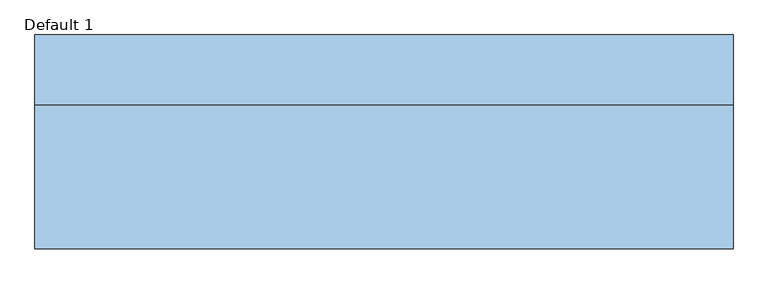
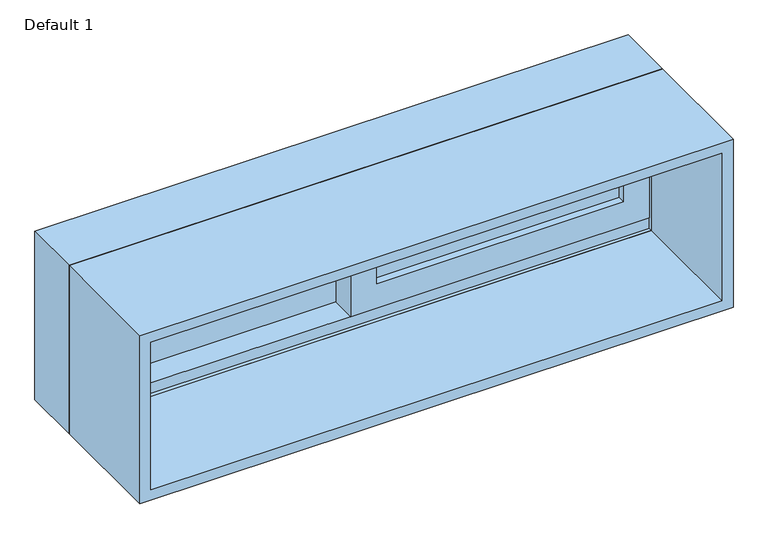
"""IFC4 building model written with IfcOpenShell, lengths in millimetres: window geometry, Planitar-Sliding-Double : Default 1."""

from ifc_helpers import new_model, si_unit, frame, origin, place, context, project, spatial, polyline, outline, extrude, faceted_brep, source, transform, mapped, element, save


def default_1_7bcdb6ec(model_context):
    return source(origin(), model_context, "Body", "SolidModel", [
        extrude(outline(polyline([(933.45, -488.95), (933.45, 22.225), (1200.15, 22.225), (1200.15, -488.95), (933.45, -488.95)]), holes=[polyline([(1155.7, -22.225), (996.95, -22.225), (996.95, -444.5), (1155.7, -444.5), (1155.7, -22.225)])]), frame((0.0, 110.49, 0.0), z_axis=(0.0, 1.0, 0.0), x_axis=(0.0, 0.0, 1.0)), (0.0, 0.0, 1.0), 44.45),
        extrude(outline(polyline([(952.5, 488.95), (1200.15, 488.95), (1200.15, -22.225), (952.5, -22.225), (952.5, 488.95)]), holes=[polyline([(996.95, 22.225), (1155.7, 22.225), (1155.7, 444.5), (996.95, 444.5), (996.95, 22.225)])]), frame((0.0, 66.04, 0.0), z_axis=(0.0, 1.0, 0.0), x_axis=(0.0, 0.0, 1.0)), (0.0, 0.0, 1.0), 44.45),
        faceted_brep([(-508.0, 59.69, 914.4), (-508.0, 161.29, 914.4), (508.0, 161.29, 914.4), (508.0, 59.69, 914.4), (-467.0778905, 161.29, 1178.2778905), (-467.0778905, 154.94, 1178.2778905), (-467.0778905, 154.94, 933.45), (-467.0778905, 161.29, 933.45), (467.0778905, 154.94, 1178.2778905), (467.0778905, 154.94, 933.45), (488.95, 154.94, 933.45), (488.95, 154.94, 1200.15), (-488.95, 154.94, 1200.15), (-488.95, 154.94, 933.45), (-488.95, 59.69, 1200.15), (-488.95, 59.69, 933.45), (-488.95, 66.04, 933.45), (-488.95, 66.04, 952.5), (-488.95, 110.49, 952.5), (-488.95, 110.49, 933.45), (508.0, 59.69, 1219.2), (-508.0, 59.69, 1219.2), (488.95, 59.69, 1200.15), (488.95, 59.69, 933.45), (-508.0, 161.29, 1219.2), (508.0, 161.29, 1219.2), (467.0778905, 161.29, 933.45), (467.0778905, 161.29, 1178.2778905), (488.95, 110.49, 933.45), (488.95, 110.49, 952.5), (488.95, 66.04, 952.5), (488.95, 66.04, 933.45)], [[[0, 1, 2, 3]], [[4, 5, 6, 7]], [[5, 8, 9, 10, 11, 12, 13, 6]], [[12, 14, 15, 16, 17, 18, 19, 13]], [[0, 3, 20, 21], [22, 23, 15, 14]], [[24, 1, 0, 21]], [[2, 1, 24, 25], [4, 7, 26, 27]], [[5, 4, 27, 8]], [[12, 11, 22, 14]], [[21, 20, 25, 24]], [[8, 27, 26, 9]], [[22, 11, 10, 28, 29, 30, 31, 23]], [[20, 3, 2, 25]], [[26, 7, 6, 13, 19, 28, 10, 9]], [[28, 19, 18, 29]], [[29, 18, 17, 30]], [[30, 17, 16, 31]], [[15, 23, 31, 16]]]),
        extrude(outline(polyline([(1219.2, -508.0), (914.4, -508.0), (914.4, 508.0), (1219.2, 508.0), (1219.2, -508.0)]), holes=[polyline([(1200.15, 488.95), (933.45, 488.95), (933.45, -488.95), (1200.15, -488.95), (1200.15, 488.95)])]), frame((0.0, -149.86, 0.0), z_axis=(0.0, 1.0, 0.0), x_axis=(0.0, 0.0, 1.0)), (0.0, 0.0, 1.0), 209.55),
        extrude(outline(polyline([(444.5, 97.79), (444.5, 91.44), (22.225, 91.44), (22.225, 97.79), (444.5, 97.79)])), frame((0.0, 0.0, 996.95), z_axis=(0.0, 0.0, 1.0), x_axis=(1.0, 0.0, 0.0)), (0.0, 0.0, 1.0), 158.75),
        extrude(outline(polyline([(444.5, 85.09), (444.5, 78.74), (22.225, 78.74), (22.225, 85.09), (444.5, 85.09)])), frame((0.0, 0.0, 996.95), z_axis=(0.0, 0.0, 1.0), x_axis=(1.0, 0.0, 0.0)), (0.0, 0.0, 1.0), 158.75),
        extrude(outline(polyline([(-22.225, 142.24), (-22.225, 135.89), (-444.5, 135.89), (-444.5, 142.24), (-22.225, 142.24)])), frame((0.0, 0.0, 996.95), z_axis=(0.0, 0.0, 1.0), x_axis=(1.0, 0.0, 0.0)), (0.0, 0.0, 1.0), 158.75),
        extrude(outline(polyline([(-22.225, 129.54), (-22.225, 123.19), (-444.5, 123.19), (-444.5, 129.54), (-22.225, 129.54)])), frame((0.0, 0.0, 996.95), z_axis=(0.0, 0.0, 1.0), x_axis=(1.0, 0.0, 0.0)), (0.0, 0.0, 1.0), 158.75),
    ])


if __name__ == "__main__":
    model = new_model("IFC4")
    model_context = context("Model", 3, world=origin())
    ifc_project = project(units=[si_unit("LENGTHUNIT", "METRE", prefix="MILLI")], contexts=[model_context])
    site = spatial("IfcSite", under=ifc_project)
    building = spatial("IfcBuilding", under=site)
    placement = place(None, origin())
    default_1_shape = default_1_7bcdb6ec(model_context)
    element("IfcWindow", 1, ObjectType="Planitar-Sliding-Double : Default 1", at=placement, inside=building, context=model_context, shape_type="MappedRepresentation", body=[
        mapped(default_1_shape, transform((0.0, 0.0, 0.0), x_axis=(1.0, 0.0, 0.0), y_axis=(0.0, 1.0, 0.0), z_axis=(0.0, 0.0, 1.0))),
    ])
    save(model, "model.ifc")
